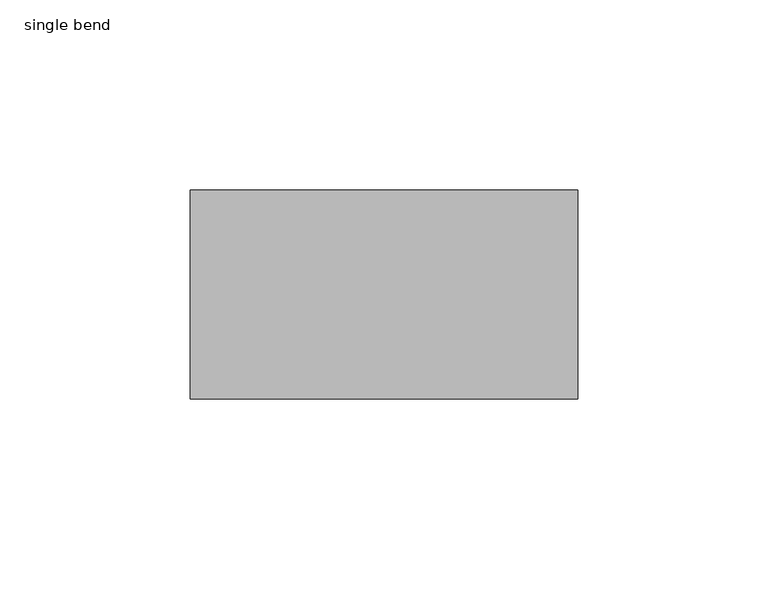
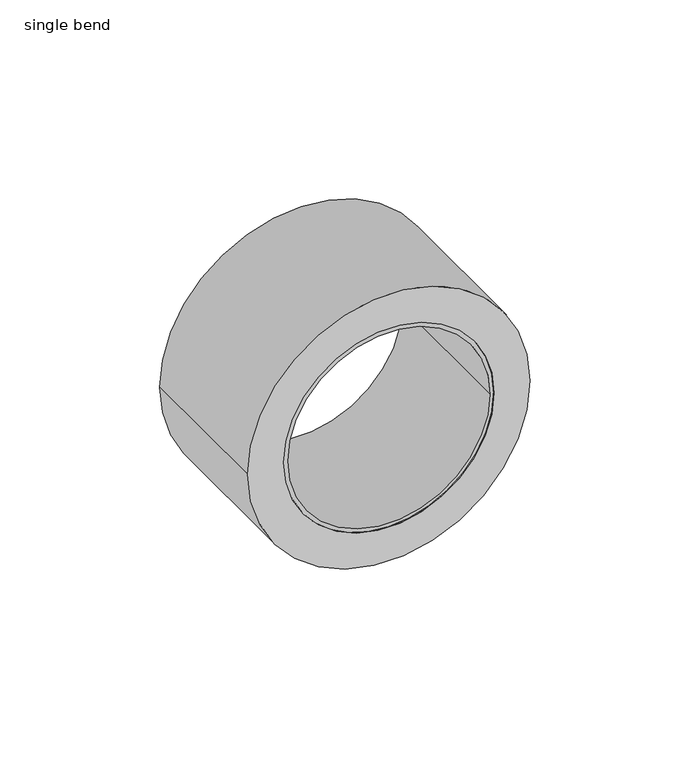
"""IFC4 building model written with IfcOpenShell, lengths in millimetres: pipe fitting geometry, PIF_ST_UN_GM-X compound pipe multi-bend_ACO : single bend."""

from ifc_helpers import new_model, si_unit, point, frame, origin, origin_2d, place, context, project, spatial, polyline, circle_curve, trimmed, segment, composite_curve, outline, extrude, source, transform, mapped, element, save
from ifc_brep_helpers import plane_surface, cylinder_surface, revolved_surface, advanced_brep


def single_bend_1a633ba9(model_context):
    return source(origin(), model_context, "Body", "SolidModel", [
        extrude(outline(composite_curve([segment(trimmed(circle_curve(origin_2d(), 51.0), [point((0.0, 51.0))], [point((0.0, -51.0))], False, "CARTESIAN"), True, "CONTINUOUS"), segment(trimmed(circle_curve(origin_2d(), 51.0), [point((0.0, -51.0))], [point((0.0, 51.0))], False, "CARTESIAN"), True, "CONTINUOUS")], self_intersect=False), holes=[composite_curve([segment(trimmed(circle_curve(origin_2d(), 38.0), [point((0.0, 38.0))], [point((0.0, -38.0))], True, "CARTESIAN"), True, "CONTINUOUS"), segment(trimmed(circle_curve(origin_2d(), 38.0), [point((0.0, -38.0))], [point((0.0, 38.0))], True, "CARTESIAN"), True, "CONTINUOUS")], self_intersect=False)]), frame((0.0, 63.7, 0.0), z_axis=(0.0, 1.0, 0.0), x_axis=(0.0, 0.0, 1.0)), (0.0, 0.0, 1.0), 55.0),
        advanced_brep(
        [(38.0, 118.7, 0.0), (-38.0, 118.7, 0.0), (-36.5, 118.7, 0.0), (36.5, 118.7, 0.0), (38.0, 63.7, 0.0), (-38.0, 63.7, 0.0), (36.5, 63.7, 0.0), (-36.5, 63.7, 0.0), (38.0, 89.7, 0.0), (-38.0, 89.7, 0.0), (-38.0, 69.6, 0.0), (38.0, 69.6, 0.0), (42.1, 89.7, 0.0), (-42.1, 89.7, 0.0), (42.1, 69.6, 0.0), (-42.1, 69.6, 0.0)],
        [
            (0, 1, circle_curve(frame((0.0, 118.7, 0.0), z_axis=(0.0, 1.0, 0.0), x_axis=(-1.0, 0.0, 0.0)), 38.0)),
            (1, 0, circle_curve(frame((0.0, 118.7, 0.0), z_axis=(0.0, 1.0, 0.0), x_axis=(-1.0, 0.0, 0.0)), 38.0)),
            (2, 3, circle_curve(frame((0.0, 118.7, 0.0), z_axis=(0.0, -1.0, 0.0), x_axis=(-1.0, 0.0, 0.0)), 36.5)),
            (3, 2, circle_curve(frame((0.0, 118.7, 0.0), z_axis=(0.0, -1.0, 0.0), x_axis=(-1.0, 0.0, 0.0)), 36.5)),
            (4, 5, circle_curve(frame((0.0, 63.7, 0.0), z_axis=(0.0, -1.0, 0.0), x_axis=(-1.0, 0.0, 0.0)), 38.0)),
            (5, 4, circle_curve(frame((0.0, 63.7, 0.0), z_axis=(0.0, -1.0, 0.0), x_axis=(-1.0, 0.0, 0.0)), 38.0)),
            (6, 7, circle_curve(frame((0.0, 63.7, 0.0), z_axis=(0.0, 1.0, 0.0), x_axis=(-1.0, 0.0, 0.0)), 36.5)),
            (7, 6, circle_curve(frame((0.0, 63.7, 0.0), z_axis=(0.0, 1.0, 0.0), x_axis=(-1.0, 0.0, 0.0)), 36.5)),
            (0, 8),
            (8, 9, circle_curve(frame((0.0, 89.7, 0.0), z_axis=(0.0, 1.0, 0.0), x_axis=(-1.0, 0.0, 0.0)), 38.0)),
            (9, 1),
            (5, 10),
            (10, 11, circle_curve(frame((0.0, 69.6, 0.0), z_axis=(0.0, -1.0, 0.0), x_axis=(-1.0, 0.0, 0.0)), 38.0)),
            (11, 4),
            (9, 8, circle_curve(frame((0.0, 89.7, 0.0), z_axis=(0.0, 1.0, 0.0), x_axis=(-1.0, 0.0, 0.0)), 38.0)),
            (11, 10, circle_curve(frame((0.0, 69.6, 0.0), z_axis=(0.0, -1.0, 0.0), x_axis=(-1.0, 0.0, 0.0)), 38.0)),
            (2, 7),
            (6, 3),
            (12, 13, circle_curve(frame((0.0, 89.7, 0.0), z_axis=(0.0, 1.0, 0.0), x_axis=(-1.0, 0.0, 0.0)), 42.1)),
            (13, 12, circle_curve(frame((0.0, 89.7, 0.0), z_axis=(0.0, 1.0, 0.0), x_axis=(-1.0, 0.0, 0.0)), 42.1)),
            (14, 15, circle_curve(frame((0.0, 69.6, 0.0), z_axis=(0.0, -1.0, 0.0), x_axis=(-1.0, 0.0, 0.0)), 42.1)),
            (15, 14, circle_curve(frame((0.0, 69.6, 0.0), z_axis=(0.0, -1.0, 0.0), x_axis=(-1.0, 0.0, 0.0)), 42.1)),
            (12, 14),
            (15, 13),
        ],
        [
            plane_surface(frame((-38.0, 118.7, 0.0), z_axis=(0.0, 1.0, 0.0), x_axis=(0.0, 0.0, 1.0))),
            plane_surface(frame((-38.0, 63.7, 0.0), z_axis=(0.0, -1.0, 0.0), x_axis=(0.0, 0.0, -1.0))),
            cylinder_surface(frame((0.0, 63.7, 0.0), z_axis=(0.0, 1.0, 0.0), x_axis=(-1.0, 0.0, 0.0)), 38.0),
            revolved_surface(polyline([(-36.5, 118.7, 0.0), (-36.5, 63.7, 0.0)]), (0.0, 63.7, 0.0), (0.0, 1.0, 0.0)),
            plane_surface(frame((-42.1, 89.7, 0.0), z_axis=(0.0, 1.0, 0.0), x_axis=(0.0, 0.0, 1.0))),
            plane_surface(frame((-42.1, 69.6, 0.0), z_axis=(0.0, -1.0, 0.0), x_axis=(0.0, 0.0, -1.0))),
            cylinder_surface(frame((0.0, 69.6, 0.0), z_axis=(0.0, 1.0, 0.0), x_axis=(-1.0, 0.0, 0.0)), 42.1),
        ],
        [
            (0, [[1, 2], [3, 4]]),
            (1, [[5, 6], [7, 8]]),
            (2, [[-1, 9, 10, 11]]),
            (2, [[-6, 12, 13, 14]]),
            (2, [[-2, -11, 15, -9]]),
            (2, [[-5, -14, 16, -12]]),
            (3, [[17, -7, 18, -3]]),
            (3, [[-17, -4, -18, -8]]),
            (4, [[19, 20], [-10, -15]]),
            (5, [[21, 22], [-13, -16]]),
            (6, [[-19, 23, -22, 24]]),
            (6, [[-20, -24, -21, -23]]),
        ],
    ),
    ])


if __name__ == "__main__":
    model = new_model("IFC4")
    model_context = context("Model", 3, world=origin())
    ifc_project = project(units=[si_unit("LENGTHUNIT", "METRE", prefix="MILLI")], contexts=[model_context])
    site = spatial("IfcSite", under=ifc_project)
    building = spatial("IfcBuilding", under=site)
    placement = place(None, origin())
    single_bend_shape = single_bend_1a633ba9(model_context)
    element("IfcPipeFitting", 1, ObjectType="PIF_ST_UN_GM-X compound pipe multi-bend_ACO : single bend", at=placement, inside=building, context=model_context, shape_type="MappedRepresentation", body=[
        mapped(single_bend_shape, transform((0.0, 0.0, 0.0), x_axis=(1.0, 0.0, 0.0), y_axis=(0.0, 1.0, 0.0), z_axis=(0.0, 0.0, 1.0))),
    ])
    save(model, "model.ifc")
